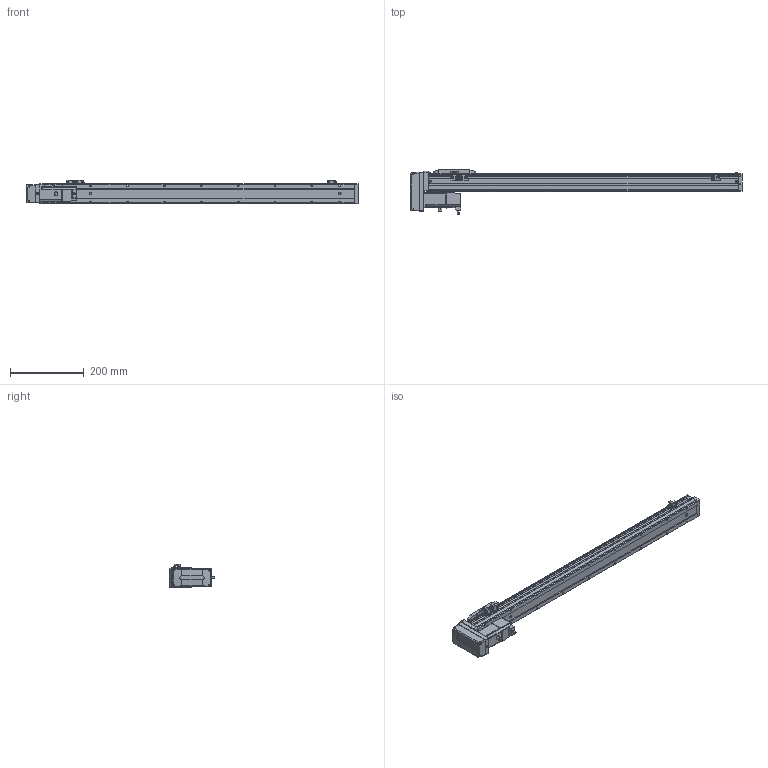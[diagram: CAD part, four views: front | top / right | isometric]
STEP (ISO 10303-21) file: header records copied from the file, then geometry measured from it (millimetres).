
FILE_DESCRIPTION (( 'STEP AP203' ), '1' );
FILE_NAME ('CTH5-L10-S700-BM-C10(¼ò).STEP', '2023-02-04T02:20:26', ( '' ), ( '' ), 'SwSTEP 2.0', 'SolidWorks 2018', '' );
FILE_SCHEMA (( 'CONFIG_CONTROL_DESIGN' ));
Length unit declared in the file: millimetre
Products named in the file (22): CTH5菁釱-L840; CTH5-L10-S700-BM-C10(潠); CTH5ヶ耜啣(潠); CTH100W假蚾啣; 嫖萇羲壽郪磁1; CTH5耜晚蹟隊; CTH5耜蚾欶; hex nuts, style 1-grades ab gb_GB_FASTENER_NUT_SNAB1 M3-N; M3｡｣; CTH5覜茼え; CTH5耜晚蹟隊-1; 葩璃 蚾饜极16^CTH5-L10-S700-BM-C10(潠); T10-p1; 葩璃 蚾饜极13^CTH8-L10-S50-BM-C40(潠)1; CTH5耜蚾蟀諉啣(潠); CTH5賑怢; CTH5-BL-T10_body5; PM-Y45; CTH5綴耜啣; 100W萇儂; 内六角圆柱头螺钉M3-2; CTH嫖萇羲壽假蚾啣
Assembly tree (37 placements, depth 4):
  CTH5-L10-S700-BM-C10(潠)
    CTH5綴耜啣
    CTH5賑怢
    CTH5ヶ耜啣(潠)
    CTH5菁釱-L840
    CTH5耜晚蹟隊  x2
    嫖萇羲壽郪磁1  x2
      CTH嫖萇羲壽假蚾啣
      PM-Y45
      M3｡｣
      内六角圆柱头螺钉M3-2
      hex nuts, style 1-grades ab gb_GB_FASTENER_NUT_SNAB1 M3-N
    CTH5覜茼え
    葩璃 蚾饜极13^CTH8-L10-S50-BM-C40(潠)1
      CTH嫖萇羲壽假蚾啣
      PM-Y45
      内六角圆柱头螺钉M3-2  x2
      M3｡｣  x2
      hex nuts, style 1-grades ab gb_GB_FASTENER_NUT_SNAB1 M3-N  x2
    CTH5耜晚蹟隊-1  x4
    葩璃 蚾饜极16^CTH5-L10-S700-BM-C10(潠)
      CTH5耜蚾蟀諉啣(潠)
      CTH5耜蚾欶
        CTH5-BL-T10_body5
      100W萇儂
        T10-p1
      CTH100W假蚾啣
Bounding box: 900 x 122.21 x 63.3 mm (x, y, z)
Volume: 2178625.9 mm3; surface area: 303003.7 mm2
Topology: 39 solids, 39 shells, 1631 faces, 4101 edges, 2644 vertices
Faces by surface type: plane 890, cylinder 476, cone 207, torus 40, bspline 18
Entity records: 38275 total; most frequent: CARTESIAN_POINT 7092, DIRECTION 6065, ORIENTED_EDGE 5826, EDGE_CURVE 2913, AXIS2_PLACEMENT_3D 2096, VECTOR 1873, LINE 1873, VERTEX_POINT 1872
